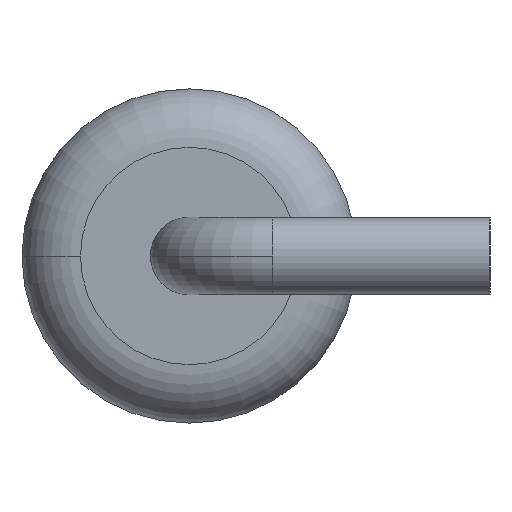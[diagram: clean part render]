
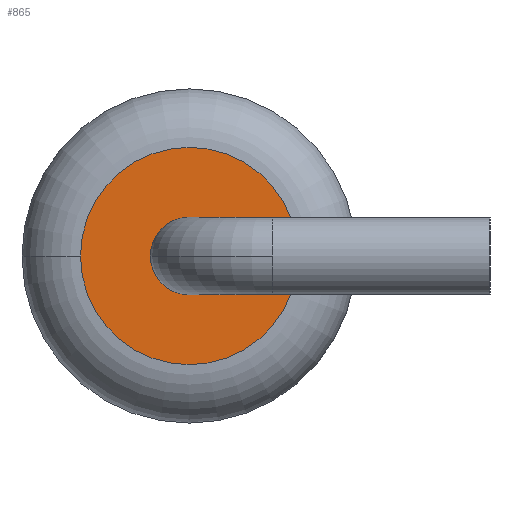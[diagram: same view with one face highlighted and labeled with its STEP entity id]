
A CAD part, left-side view. The second image highlights one B-rep face of the part: STEP entity #865.
In plain terms, the highlighted planar face has unit normal (-1, 0, 0).
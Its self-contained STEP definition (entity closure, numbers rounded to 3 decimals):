
#684 = CARTESIAN_POINT ( 'NONE',  ( -4.25, 0.438, 0. ) ) ;
#685 = VERTEX_POINT ( 'NONE', #684 ) ;
#686 = CARTESIAN_POINT ( 'NONE',  ( -4.25, 2.063, 0. ) ) ;
#687 = VERTEX_POINT ( 'NONE', #686 ) ;
#688 = CARTESIAN_POINT ( 'NONE',  ( -4.25, 1.25, 0. ) ) ;
#689 = DIRECTION ( 'NONE',  ( -1., 0., 0. ) ) ;
#690 = DIRECTION ( 'NONE',  ( 0., 1., 0. ) ) ;
#691 = AXIS2_PLACEMENT_3D ( 'NONE', #688, #689, #690 ) ;
#692 = CIRCLE ( 'NONE', #691, 0.813) ;
#693 = EDGE_CURVE ( 'NONE', #685, #687, #692, .T. ) ;
#850 = CARTESIAN_POINT ( 'NONE',  ( -4.25, 1.25, 0. ) ) ;
#851 = DIRECTION ( 'NONE',  ( -1., 0., 0. ) ) ;
#852 = DIRECTION ( 'NONE',  ( 0., 1., 0. ) ) ;
#853 = AXIS2_PLACEMENT_3D ( 'NONE', #850, #851, #852 ) ;
#854 = CIRCLE ( 'NONE', #853, 0.813) ;
#855 = EDGE_CURVE ( 'NONE', #687, #685, #854, .T. ) ;
#856 = ORIENTED_EDGE ( 'NONE', *, *, #855, .T. ) ;
#857 = ORIENTED_EDGE ( 'NONE', *, *, #693, .T. ) ;
#858 = EDGE_LOOP ( 'NONE', ( #856, #857 ) ) ;
#859 = FACE_OUTER_BOUND ( 'NONE', #858, .T. ) ;
#860 = CARTESIAN_POINT ( 'NONE',  ( -4.25, 2.5, 0. ) ) ;
#861 = DIRECTION ( 'NONE',  ( 1., 0., 0. ) ) ;
#862 = DIRECTION ( 'NONE',  ( 0., 1., 0. ) ) ;
#863 = AXIS2_PLACEMENT_3D ( 'NONE', #860, #861, #862 ) ;
#864 = PLANE ( 'NONE', #863 ) ;
#865 = ADVANCED_FACE ( 'NONE', ( #859 ), #864, .F. ) ;
